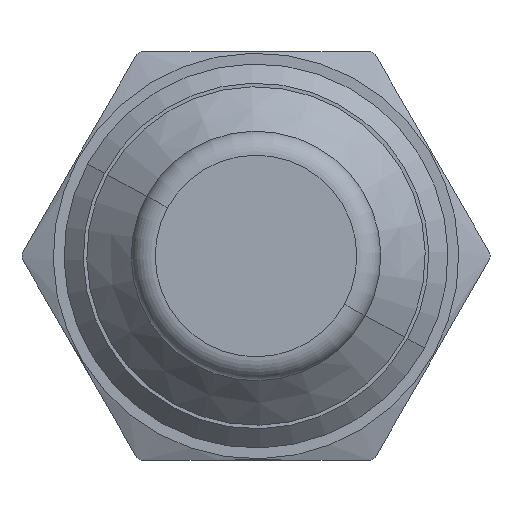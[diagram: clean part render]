
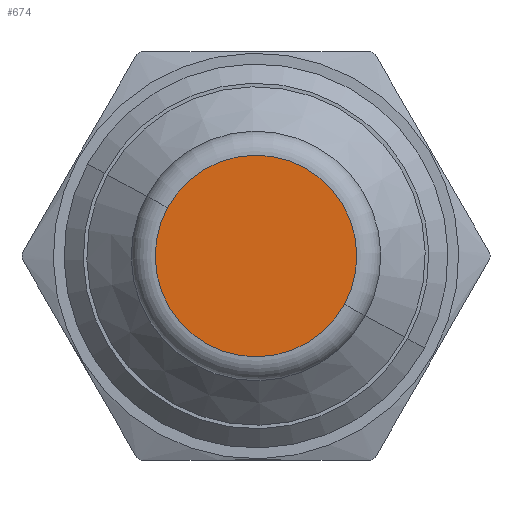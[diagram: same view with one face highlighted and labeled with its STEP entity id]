
A CAD part, left-side view. The second image highlights one B-rep face of the part: STEP entity #674.
In plain terms, the highlighted planar face has unit normal (-1, 0, 0).
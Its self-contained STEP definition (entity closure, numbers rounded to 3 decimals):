
#636=AXIS2_PLACEMENT_3D('Circle Axis2P3D',#634,#635,$) ;
#655=AXIS2_PLACEMENT_3D('Circle Axis2P3D',#653,#654,$) ;
#668=AXIS2_PLACEMENT_3D('Plane Axis2P3D',#665,#666,#667) ;
#631=CARTESIAN_POINT('Vertex',(-66.6,3.686,2.014)) ;
#634=CARTESIAN_POINT('Axis2P3D Location',(-66.6,0.,0.)) ;
#638=CARTESIAN_POINT('Vertex',(-66.6,-3.686,-2.014)) ;
#653=CARTESIAN_POINT('Axis2P3D Location',(-66.6,0.,0.)) ;
#665=CARTESIAN_POINT('Axis2P3D Location',(-66.6,4.2,0.)) ;
#635=DIRECTION('Axis2P3D Direction',(1.,0.,0.)) ;
#654=DIRECTION('Axis2P3D Direction',(1.,0.,0.)) ;
#666=DIRECTION('Axis2P3D Direction',(1.,0.,0.)) ;
#667=DIRECTION('Axis2P3D XDirection',(0.,1.,0.)) ;
#671=ORIENTED_EDGE('',*,*,#640,.F.) ;
#672=ORIENTED_EDGE('',*,*,#657,.F.) ;
#674=ADVANCED_FACE('PartBody',(#673),#669,.F.) ;
#637=CIRCLE('generated circle',#636,4.2) ;
#656=CIRCLE('generated circle',#655,4.2) ;
#640=EDGE_CURVE('',#632,#639,#637,.T.) ;
#657=EDGE_CURVE('',#639,#632,#656,.T.) ;
#670=EDGE_LOOP('',(#671,#672)) ;
#673=FACE_OUTER_BOUND('',#670,.T.) ;
#669=PLANE('',#668) ;
#632=VERTEX_POINT('',#631) ;
#639=VERTEX_POINT('',#638) ;
